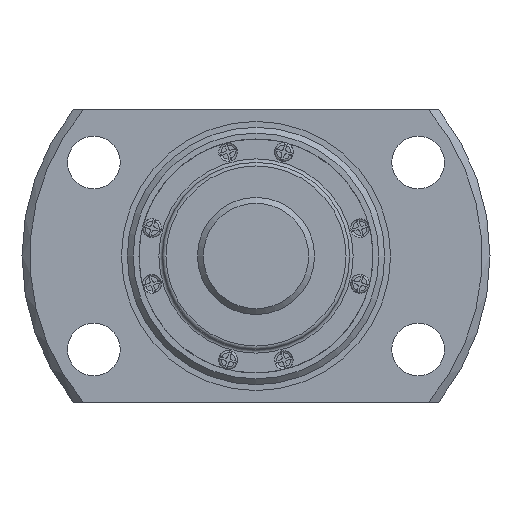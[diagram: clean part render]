
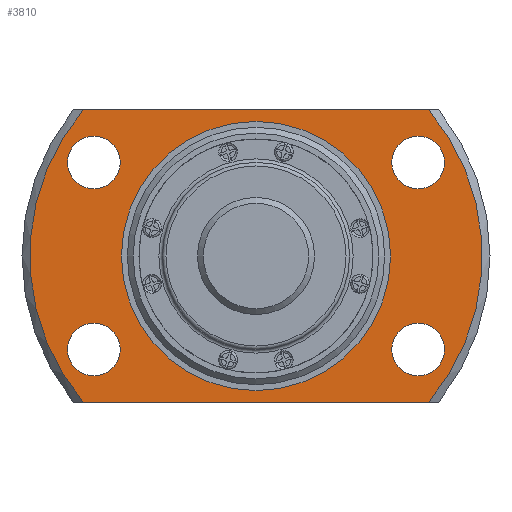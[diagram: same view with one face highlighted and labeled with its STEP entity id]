
A CAD part, left-side view. The second image highlights one B-rep face of the part: STEP entity #3810.
In plain terms, the highlighted planar face has unit normal (-1, 0, 0).
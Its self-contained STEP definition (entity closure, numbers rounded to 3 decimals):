
#188=LINE('',#6073,#484);
#189=LINE('',#6074,#485);
#484=VECTOR('',#4714,1000.);
#485=VECTOR('',#4715,1000.);
#773=PLANE('',#4138);
#1102=ORIENTED_EDGE('',*,*,#2208,.T.);
#1103=ORIENTED_EDGE('',*,*,#2209,.T.);
#1104=ORIENTED_EDGE('',*,*,#2210,.T.);
#1105=ORIENTED_EDGE('',*,*,#2211,.T.);
#1106=ORIENTED_EDGE('',*,*,#2212,.T.);
#1107=ORIENTED_EDGE('',*,*,#2203,.F.);
#1108=ORIENTED_EDGE('',*,*,#2213,.T.);
#1109=ORIENTED_EDGE('',*,*,#2206,.F.);
#1110=ORIENTED_EDGE('',*,*,#2214,.T.);
#2203=EDGE_CURVE('',#2750,#2751,#3048,.T.);
#2206=EDGE_CURVE('',#2752,#2753,#3049,.T.);
#2208=EDGE_CURVE('',#2754,#2754,#3050,.T.);
#2209=EDGE_CURVE('',#2755,#2755,#3051,.T.);
#2210=EDGE_CURVE('',#2756,#2756,#3052,.T.);
#2211=EDGE_CURVE('',#2757,#2757,#3053,.T.);
#2212=EDGE_CURVE('',#2758,#2758,#3054,.T.);
#2213=EDGE_CURVE('',#2750,#2753,#188,.T.);
#2214=EDGE_CURVE('',#2752,#2751,#189,.T.);
#2750=VERTEX_POINT('',#6043);
#2751=VERTEX_POINT('',#6045);
#2752=VERTEX_POINT('',#6055);
#2753=VERTEX_POINT('',#6057);
#2754=VERTEX_POINT('',#6064);
#2755=VERTEX_POINT('',#6066);
#2756=VERTEX_POINT('',#6068);
#2757=VERTEX_POINT('',#6070);
#2758=VERTEX_POINT('',#6072);
#3048=CIRCLE('',#4135,19.333);
#3049=CIRCLE('',#4137,19.333);
#3050=CIRCLE('',#4139,11.5);
#3051=CIRCLE('',#4140,2.25);
#3052=CIRCLE('',#4141,2.25);
#3053=CIRCLE('',#4142,2.25);
#3054=CIRCLE('',#4143,2.25);
#3193=EDGE_LOOP('',(#1102));
#3194=EDGE_LOOP('',(#1103));
#3195=EDGE_LOOP('',(#1104));
#3196=EDGE_LOOP('',(#1105));
#3197=EDGE_LOOP('',(#1106));
#3198=EDGE_LOOP('',(#1107,#1108,#1109,#1110));
#3479=FACE_BOUND('',#3193,.T.);
#3480=FACE_BOUND('',#3194,.T.);
#3481=FACE_BOUND('',#3195,.T.);
#3482=FACE_BOUND('',#3196,.T.);
#3483=FACE_BOUND('',#3197,.T.);
#3484=FACE_BOUND('',#3198,.T.);
#3810=ADVANCED_FACE('',(#3479,#3480,#3481,#3482,#3483,#3484),#773,.T.);
#4135=AXIS2_PLACEMENT_3D('',#6044,#4696,#4697);
#4137=AXIS2_PLACEMENT_3D('',#6056,#4700,#4701);
#4138=AXIS2_PLACEMENT_3D('',#6062,#4702,#4703);
#4139=AXIS2_PLACEMENT_3D('',#6063,#4704,#4705);
#4140=AXIS2_PLACEMENT_3D('',#6065,#4706,#4707);
#4141=AXIS2_PLACEMENT_3D('',#6067,#4708,#4709);
#4142=AXIS2_PLACEMENT_3D('',#6069,#4710,#4711);
#4143=AXIS2_PLACEMENT_3D('',#6071,#4712,#4713);
#4696=DIRECTION('',(1.,0.,0.));
#4697=DIRECTION('',(0.,0.,-1.));
#4700=DIRECTION('',(1.,0.,0.));
#4701=DIRECTION('',(0.,0.,-1.));
#4702=DIRECTION('',(-1.,0.,0.));
#4703=DIRECTION('',(0.,0.,1.));
#4704=DIRECTION('',(1.,0.,0.));
#4705=DIRECTION('',(0.,0.,-1.));
#4706=DIRECTION('',(1.,0.,0.));
#4707=DIRECTION('',(0.,0.,-1.));
#4708=DIRECTION('',(1.,0.,0.));
#4709=DIRECTION('',(0.,0.,-1.));
#4710=DIRECTION('',(1.,0.,0.));
#4711=DIRECTION('',(0.,0.,-1.));
#4712=DIRECTION('',(1.,0.,0.));
#4713=DIRECTION('',(0.,0.,-1.));
#4714=DIRECTION('',(0.,1.,0.));
#4715=DIRECTION('',(0.,-1.,0.));
#6043=CARTESIAN_POINT('',(6.,-14.749,12.5));
#6044=CARTESIAN_POINT('',(6.,0.,0.));
#6045=CARTESIAN_POINT('',(6.,-14.749,-12.5));
#6055=CARTESIAN_POINT('',(6.,14.749,-12.5));
#6056=CARTESIAN_POINT('',(6.,0.,0.));
#6057=CARTESIAN_POINT('',(6.,14.749,12.5));
#6062=CARTESIAN_POINT('',(6.,19.333,0.));
#6063=CARTESIAN_POINT('',(6.,0.,0.));
#6064=CARTESIAN_POINT('',(6.,0.,-11.5));
#6065=CARTESIAN_POINT('',(6.,-13.856,8.));
#6066=CARTESIAN_POINT('',(6.,-13.856,5.75));
#6067=CARTESIAN_POINT('',(6.,13.856,-8.));
#6068=CARTESIAN_POINT('',(6.,13.856,-10.25));
#6069=CARTESIAN_POINT('',(6.,-13.856,-8.));
#6070=CARTESIAN_POINT('',(6.,-13.856,-10.25));
#6071=CARTESIAN_POINT('',(6.,13.856,8.));
#6072=CARTESIAN_POINT('',(6.,13.856,5.75));
#6073=CARTESIAN_POINT('',(6.,19.333,12.5));
#6074=CARTESIAN_POINT('',(6.,19.333,-12.5));
